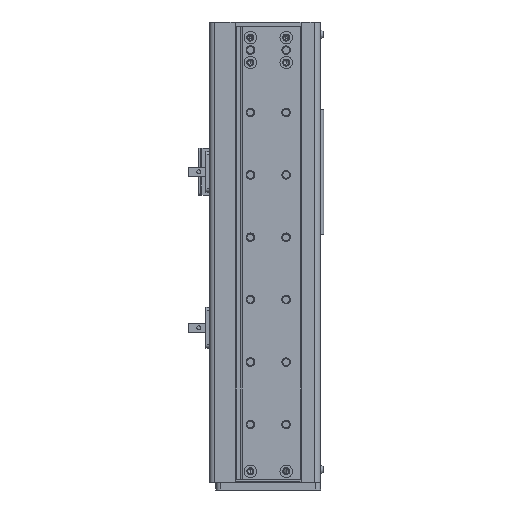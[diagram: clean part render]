
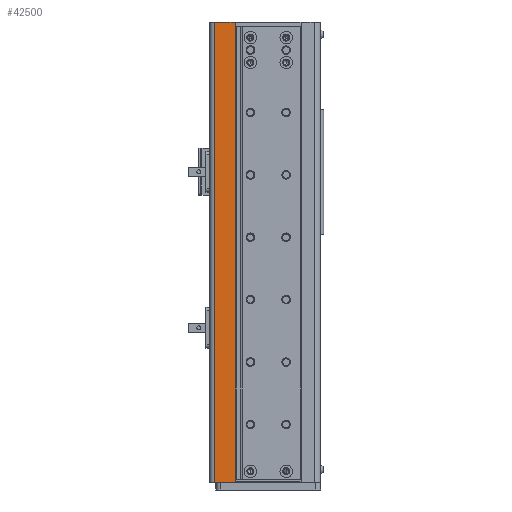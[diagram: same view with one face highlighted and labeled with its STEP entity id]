
A CAD part, front view. The second image highlights one B-rep face of the part: STEP entity #42500.
In plain terms, the highlighted planar face has unit normal (0, -1, 0).
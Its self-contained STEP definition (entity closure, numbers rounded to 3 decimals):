
#1132 = LINE ( 'NONE', #31764, #38487 ) ;
#3599 = LINE ( 'NONE', #16220, #12585 ) ;
#8791 = ORIENTED_EDGE ( 'NONE', *, *, #24790, .T. ) ;
#9449 = VERTEX_POINT ( 'NONE', #33574 ) ;
#12585 = VECTOR ( 'NONE', #16129, 1000. ) ;
#15443 = DIRECTION ( 'NONE',  ( 0., 0., -1. ) ) ;
#16129 = DIRECTION ( 'NONE',  ( 1., 0., 0. ) ) ;
#16220 = CARTESIAN_POINT ( 'NONE',  ( 12.5, 0., 295. ) ) ;
#16753 = CARTESIAN_POINT ( 'NONE',  ( 12.3, 0., 295. ) ) ;
#16904 = EDGE_LOOP ( 'NONE', ( #33031, #8791, #24877, #46496 ) ) ;
#16978 = CARTESIAN_POINT ( 'NONE',  ( 12.5, 0., 0. ) ) ;
#17110 = DIRECTION ( 'NONE',  ( 1., 0., 0. ) ) ;
#17302 = EDGE_CURVE ( 'NONE', #9449, #18679, #36459, .T. ) ;
#17994 = DIRECTION ( 'NONE',  ( 0., 0., 1. ) ) ;
#18035 = CARTESIAN_POINT ( 'NONE',  ( 12.3, 0., 295. ) ) ;
#18679 = VERTEX_POINT ( 'NONE', #44672 ) ;
#19754 = EDGE_CURVE ( 'NONE', #18679, #24843, #46769, .T. ) ;
#19822 = EDGE_CURVE ( 'NONE', #30389, #24843, #3599, .T. ) ;
#22103 = DIRECTION ( 'NONE',  ( -1., 0., 0. ) ) ;
#24790 = EDGE_CURVE ( 'NONE', #30389, #9449, #1132, .T. ) ;
#24843 = VERTEX_POINT ( 'NONE', #16753 ) ;
#24877 = ORIENTED_EDGE ( 'NONE', *, *, #17302, .T. ) ;
#25688 = PLANE ( 'NONE',  #29400 ) ;
#25950 = VECTOR ( 'NONE', #17994, 1000. ) ;
#26694 = VECTOR ( 'NONE', #17110, 1000. ) ;
#29400 = AXIS2_PLACEMENT_3D ( 'NONE', #33140, #43985, #22103 ) ;
#30389 = VERTEX_POINT ( 'NONE', #38586 ) ;
#31764 = CARTESIAN_POINT ( 'NONE',  ( -1., 0., 0. ) ) ;
#33031 = ORIENTED_EDGE ( 'NONE', *, *, #19822, .F. ) ;
#33140 = CARTESIAN_POINT ( 'NONE',  ( 12.5, 0., 295. ) ) ;
#33574 = CARTESIAN_POINT ( 'NONE',  ( -1., 0., 0. ) ) ;
#36459 = LINE ( 'NONE', #16978, #26694 ) ;
#38487 = VECTOR ( 'NONE', #15443, 1000. ) ;
#38586 = CARTESIAN_POINT ( 'NONE',  ( -1., 0., 295. ) ) ;
#42500 = ADVANCED_FACE ( 'NONE', ( #47176 ), #25688, .F. ) ;
#43985 = DIRECTION ( 'NONE',  ( 0., 1., 0. ) ) ;
#44672 = CARTESIAN_POINT ( 'NONE',  ( 12.3, 0., 0. ) ) ;
#46496 = ORIENTED_EDGE ( 'NONE', *, *, #19754, .T. ) ;
#46769 = LINE ( 'NONE', #18035, #25950 ) ;
#47176 = FACE_OUTER_BOUND ( 'NONE', #16904, .T. ) ;
